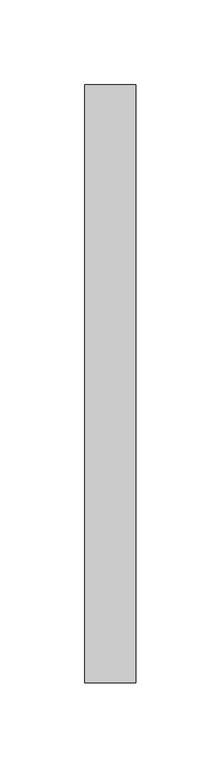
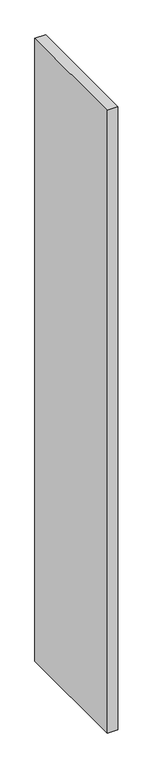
"""IFC4 building model written with IfcOpenShell, lengths in millimetres: furniture geometry, Divisoria_Lateral Fechada : Divisoria_Lateral Fechada_130x180."""

from ifc_helpers import new_model, si_unit, frame, origin, place, context, project, spatial, polyline, outline, extrude, source, transform, mapped, element, save


def furniture_24ea4f47(model_context):
    return source(origin(), model_context, "Body", "SweptSolid", [
        extrude(outline(polyline([(59.7003264, 50.0), (59.7003264, -302.25), (29.7003264, -302.25), (29.7003264, 50.0), (59.7003264, 50.0)])), frame((0.0, 0.0, 50.0), z_axis=(0.0, 0.0, 1.0), x_axis=(1.0, 0.0, 0.0)), (0.0, 0.0, 1.0), 1850.0),
    ])


if __name__ == "__main__":
    model = new_model("IFC4")
    model_context = context("Model", 3, world=origin())
    ifc_project = project(units=[si_unit("LENGTHUNIT", "METRE", prefix="MILLI")], contexts=[model_context])
    site = spatial("IfcSite", under=ifc_project)
    building = spatial("IfcBuilding", under=site)
    placement = place(None, origin())
    furniture_shape = furniture_24ea4f47(model_context)
    element("IfcFurniture", 1, ObjectType="Divisoria_Lateral Fechada : Divisoria_Lateral Fechada_130x180", at=placement, inside=building, context=model_context, shape_type="MappedRepresentation", body=[
        mapped(furniture_shape, transform((0.0, 0.0, 0.0), x_axis=(1.0, 0.0, 0.0), y_axis=(0.0, 1.0, 0.0), z_axis=(0.0, 0.0, 1.0))),
    ])
    save(model, "model.ifc")
